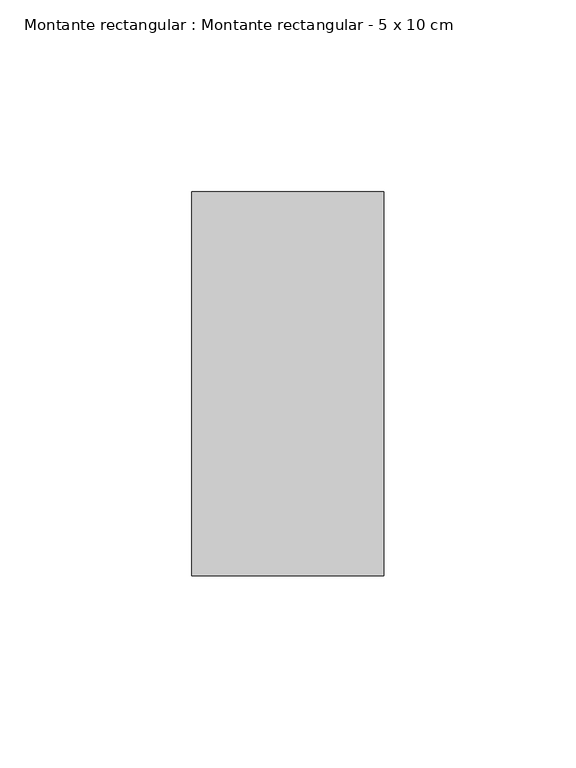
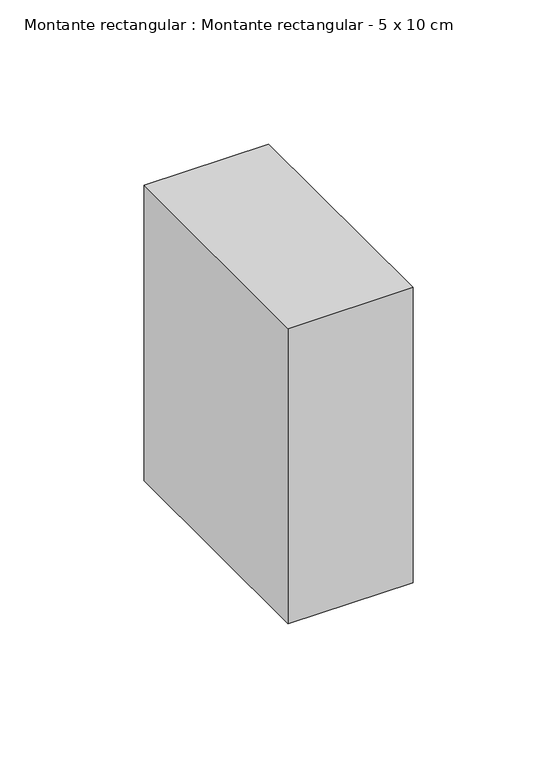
"""IFC4 building model written with IfcOpenShell, lengths in millimetres: member geometry, Montante rectangular : Montante rectangular - 5 x 10 cm."""

from ifc_helpers import new_model, si_unit, frame, origin, place, context, project, spatial, polyline, outline, extrude, source, transform, mapped, element, save


def montante_rectangular_montante_rectangular_5_x_10_cm_ec522a57(model_context):
    return source(origin(), model_context, "Body", "SweptSolid", [
        extrude(outline(polyline([(25.0, 50.0), (25.0, -50.0), (-25.0, -50.0), (-25.0, 50.0), (25.0, 50.0)])), frame((0.0, 0.0, -125.0), z_axis=(0.0, 0.0, 1.0), x_axis=(1.0, 0.0, 0.0)), (0.0, 0.0, 1.0), 125.0),
    ])


if __name__ == "__main__":
    model = new_model("IFC4")
    model_context = context("Model", 3, world=origin())
    ifc_project = project(units=[si_unit("LENGTHUNIT", "METRE", prefix="MILLI")], contexts=[model_context])
    site = spatial("IfcSite", under=ifc_project)
    building = spatial("IfcBuilding", under=site)
    placement = place(None, origin())
    montante_rectangular_montante_rectangular_5_x_10_cm_shape = montante_rectangular_montante_rectangular_5_x_10_cm_ec522a57(model_context)
    element("IfcMember", 1, ObjectType="Montante rectangular : Montante rectangular - 5 x 10 cm", at=placement, inside=building, context=model_context, shape_type="MappedRepresentation", body=[
        mapped(montante_rectangular_montante_rectangular_5_x_10_cm_shape, transform((0.0, 0.0, 0.0), x_axis=(1.0, 0.0, 0.0), y_axis=(0.0, 1.0, 0.0), z_axis=(0.0, 0.0, 1.0))),
    ])
    save(model, "model.ifc")
